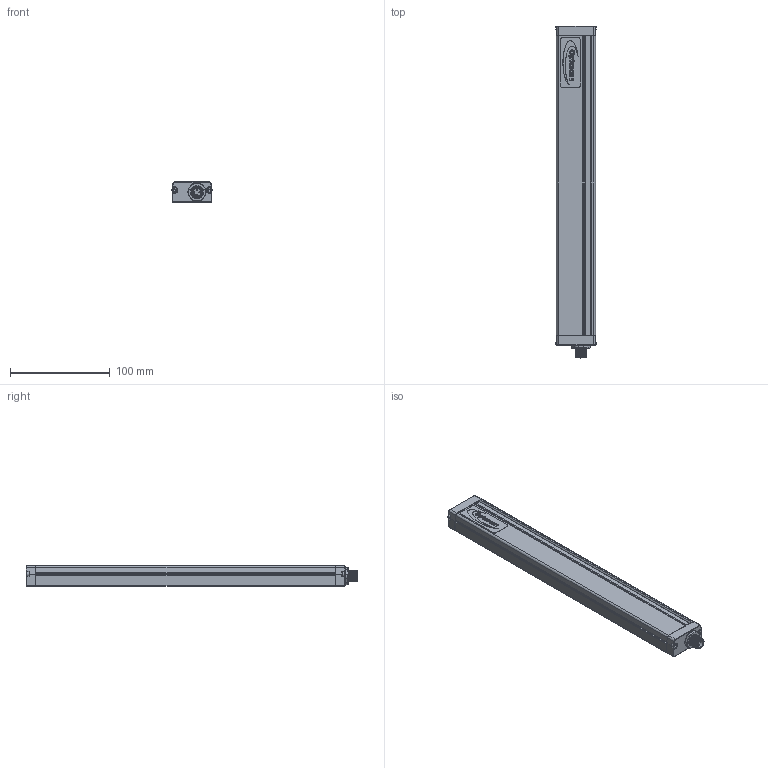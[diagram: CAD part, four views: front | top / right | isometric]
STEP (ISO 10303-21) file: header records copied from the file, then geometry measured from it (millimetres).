
FILE_DESCRIPTION(/* description */ (''),/* implementation_level */ '2;1');
FILE_NAME(/* name */ 'C:\Users\Andrea\SynologyDrive\Optoscan\Libreria Componenti\00 - Barriere\Barriera sorgente\Barriera RX\Argo_300_RX.stp',/* time_stamp */ '2022-06-30T15:47:01+02:00',/* author */ ('Andrea'),/* organization */ (''),/* preprocessor_version */ 'ST-DEVELOPER v18.1',/* originating_system */ 'Autodesk Inventor 2022',/* authorisation */ '');
FILE_SCHEMA (('AUTOMOTIVE_DESIGN { 1 0 10303 214 3 1 1 }'));
Length unit declared in the file: millimetre
Products named in the file (1): Argo_300_RX
Bounding box: 40.5 x 332.8 x 20.75 mm (x, y, z)
Volume: 69563.5 mm3; surface area: 88592.7 mm2
Topology: 1 solids, 2 shells, 753 faces, 2017 edges, 1278 vertices
Faces by surface type: plane 336, cylinder 216, bspline 115, torus 72, cone 8, sphere 6
Full cylindrical faces by diameter (mm): 1 x12, 1.2 x4, 2.459 x4, 2.5 x4, 3 x4, 3.5 x4, 5.5 x4, 8 x1, 10 x1, 10.5 x2, 11.75 x8, 12 x1, 12.3 x3, 14.5 x1, 16.7 x1, 17.5 x1
Entity records: 30151 total; most frequent: CARTESIAN_POINT 11037, ORIENTED_EDGE 4018, DIRECTION 3500, EDGE_CURVE 2009, VERTEX_POINT 1278, AXIS2_PLACEMENT_3D 1219, LINE 1062, VECTOR 1062
